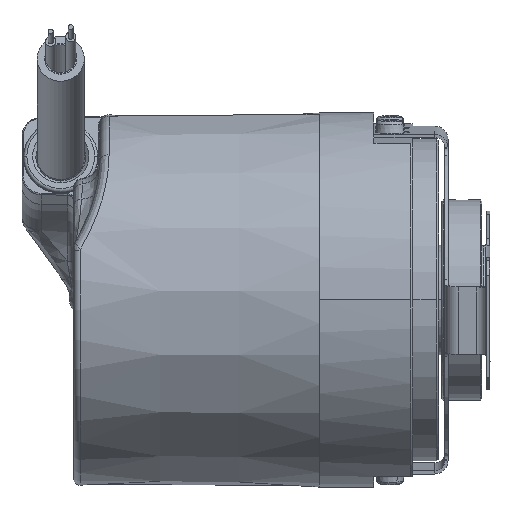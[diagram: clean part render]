
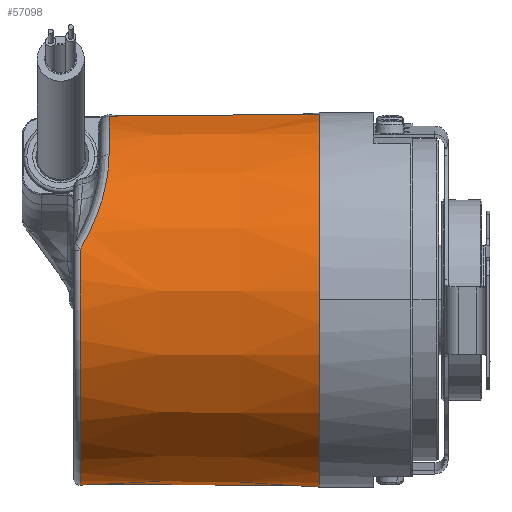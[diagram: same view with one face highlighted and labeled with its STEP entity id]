
A CAD part, top view. The second image highlights one B-rep face of the part: STEP entity #57098.
In plain terms, the highlighted conical face has half-angle 0.5 degrees and reference radius 29 mm.
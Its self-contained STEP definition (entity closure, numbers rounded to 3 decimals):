
#1230 = CARTESIAN_POINT ( 'NONE',  ( 7.5, 28.768, 3.66 ) ) ;
#1241 = CARTESIAN_POINT ( 'NONE',  ( 7.5, -28.768, -3.66 ) ) ;
#1776 = DIRECTION ( 'NONE',  ( 1., -0.009, -0.001 ) ) ;
#2298 = CARTESIAN_POINT ( 'NONE',  ( 7.5, 28.768, 3.66 ) ) ;
#2307 = DIRECTION ( 'NONE',  ( 1., 0.009, 0.001 ) ) ;
#8005 = EDGE_LOOP ( 'NONE', ( #53859, #53860, #53862, #53863, #53865, #53866 ) ) ;
#9451 = DIRECTION ( 'NONE',  ( 0., -0.992, -0.126 ) ) ;
#9453 = DIRECTION ( 'NONE',  ( 1., 0., 0. ) ) ;
#9455 = CARTESIAN_POINT ( 'NONE',  ( 7.5, 0., 0. ) ) ;
#13871 = AXIS2_PLACEMENT_3D ( 'NONE', #9455, #9453, #9451 ) ;
#17040 = FACE_OUTER_BOUND ( 'NONE', #8005, .T. ) ;
#17068 = CONICAL_SURFACE ( 'NONE', #13871, 29., 0.009 ) ;
#23854 = VERTEX_POINT ( 'NONE', #1230 ) ;
#23865 = VERTEX_POINT ( 'NONE', #1241 ) ;
#23900 = VERTEX_POINT ( 'NONE', #47360 ) ;
#23929 = VERTEX_POINT ( 'NONE', #47389 ) ;
#23952 = VERTEX_POINT ( 'NONE', #47412 ) ;
#23954 = VERTEX_POINT ( 'NONE', #47414 ) ;
#32789 = CARTESIAN_POINT ( 'NONE',  ( -29.509, 0., 0. ) ) ;
#32790 = DIRECTION ( 'NONE',  ( 1., 0., 0. ) ) ;
#32791 = DIRECTION ( 'NONE',  ( 0., 0.992, 0.126 ) ) ;
#32884 = CARTESIAN_POINT ( 'NONE',  ( -25.013, 0., 0. ) ) ;
#32885 = DIRECTION ( 'NONE',  ( 1., 0., 0. ) ) ;
#32886 = DIRECTION ( 'NONE',  ( 0., -0.992, -0.126 ) ) ;
#33598 = B_SPLINE_CURVE_WITH_KNOTS ( 'NONE', 3,
 ( #50802, #50803, #50808, #50809, #50810, #50811, #50812, #50813, #50814, #50815, #50816, #50817, #50818, #50819, #50820, #50821 ),
 .UNSPECIFIED., .F., .F.,
 ( 4, 2, 2, 2, 2, 2, 2, 4 ),
 ( 0., 0.005, 0.006, 0.007, 0.009, 0.014, 0.016, 0.019 ),
 .UNSPECIFIED. ) ;
#35792 = AXIS2_PLACEMENT_3D ( 'NONE', #32789, #32790, #32791 ) ;
#35942 = AXIS2_PLACEMENT_3D ( 'NONE', #32884, #32885, #32886 ) ;
#37788 = CIRCLE ( 'NONE', #35792, 28.677 ) ;
#37814 = CIRCLE ( 'NONE', #35942, 28.716 ) ;
#38380 = EDGE_CURVE ( 'NONE', #23865, #23854, #55783, .T. ) ;
#38498 = EDGE_CURVE ( 'NONE', #23929, #23954, #33598, .T. ) ;
#38941 = CARTESIAN_POINT ( 'NONE',  ( 7.5, -28.768, -3.66 ) ) ;
#47068 = EDGE_CURVE ( 'NONE', #23900, #23865, #56671, .T. ) ;
#47099 = EDGE_CURVE ( 'NONE', #23952, #23854, #56696, .T. ) ;
#47360 = CARTESIAN_POINT ( 'NONE',  ( -29.509, -28.448, -3.619 ) ) ;
#47389 = CARTESIAN_POINT ( 'NONE',  ( -25.013, 22.498, 17.845 ) ) ;
#47412 = CARTESIAN_POINT ( 'NONE',  ( -25.013, 28.487, 3.624 ) ) ;
#47414 = CARTESIAN_POINT ( 'NONE',  ( -29.509, 7.702, 27.623 ) ) ;
#50540 = CARTESIAN_POINT ( 'NONE',  ( 7.5, 0., 0. ) ) ;
#50541 = DIRECTION ( 'NONE',  ( -1., 0., 0. ) ) ;
#50542 = DIRECTION ( 'NONE',  ( 0., 0.992, 0.126 ) ) ;
#50802 = CARTESIAN_POINT ( 'NONE',  ( -25.013, 22.498, 17.845 ) ) ;
#50803 = CARTESIAN_POINT ( 'NONE',  ( -25.013, 21.517, 19.082 ) ) ;
#50808 = CARTESIAN_POINT ( 'NONE',  ( -25.087, 20.446, 20.223 ) ) ;
#50809 = CARTESIAN_POINT ( 'NONE',  ( -25.298, 19.001, 21.531 ) ) ;
#50810 = CARTESIAN_POINT ( 'NONE',  ( -25.346, 18.706, 21.787 ) ) ;
#50811 = CARTESIAN_POINT ( 'NONE',  ( -25.455, 18.107, 22.287 ) ) ;
#50812 = CARTESIAN_POINT ( 'NONE',  ( -25.516, 17.801, 22.531 ) ) ;
#50813 = CARTESIAN_POINT ( 'NONE',  ( -25.716, 16.88, 23.237 ) ) ;
#50814 = CARTESIAN_POINT ( 'NONE',  ( -25.874, 16.255, 23.676 ) ) ;
#50815 = CARTESIAN_POINT ( 'NONE',  ( -26.423, 14.351, 24.905 ) ) ;
#50816 = CARTESIAN_POINT ( 'NONE',  ( -26.889, 13.044, 25.606 ) ) ;
#50817 = CARTESIAN_POINT ( 'NONE',  ( -27.755, 11.042, 26.493 ) ) ;
#50818 = CARTESIAN_POINT ( 'NONE',  ( -28.072, 10.367, 26.76 ) ) ;
#50819 = CARTESIAN_POINT ( 'NONE',  ( -28.753, 9.03, 27.235 ) ) ;
#50820 = CARTESIAN_POINT ( 'NONE',  ( -29.119, 8.364, 27.442 ) ) ;
#50821 = CARTESIAN_POINT ( 'NONE',  ( -29.509, 7.702, 27.623 ) ) ;
#53859 = ORIENTED_EDGE ( 'NONE', *, *, #47099, .F. ) ;
#53860 = ORIENTED_EDGE ( 'NONE', *, *, #54367, .T. ) ;
#53862 = ORIENTED_EDGE ( 'NONE', *, *, #38498, .T. ) ;
#53863 = ORIENTED_EDGE ( 'NONE', *, *, #54325, .T. ) ;
#53865 = ORIENTED_EDGE ( 'NONE', *, *, #47068, .T. ) ;
#53866 = ORIENTED_EDGE ( 'NONE', *, *, #38380, .T. ) ;
#54325 = EDGE_CURVE ( 'NONE', #23954, #23900, #37788, .T. ) ;
#54367 = EDGE_CURVE ( 'NONE', #23952, #23929, #37814, .T. ) ;
#55783 = CIRCLE ( 'NONE', #63187, 29. ) ;
#56671 = LINE ( 'NONE', #38941, #56682 ) ;
#56682 = VECTOR ( 'NONE', #1776, 1000. ) ;
#56696 = LINE ( 'NONE', #2298, #56710 ) ;
#56710 = VECTOR ( 'NONE', #2307, 1000. ) ;
#57098 = ADVANCED_FACE ( 'NONE', ( #17040 ), #17068, .T. ) ;
#63187 = AXIS2_PLACEMENT_3D ( 'NONE', #50540, #50541, #50542 ) ;
